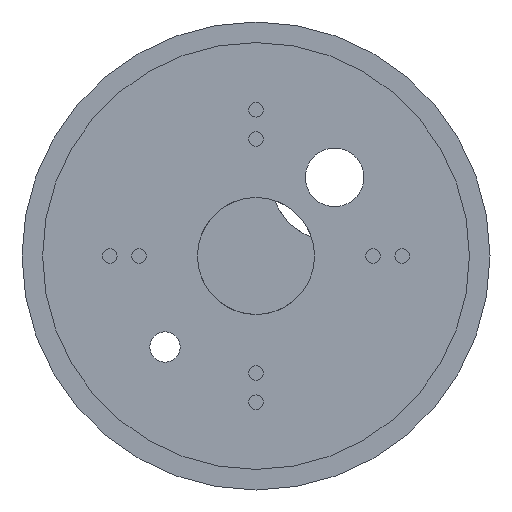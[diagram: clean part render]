
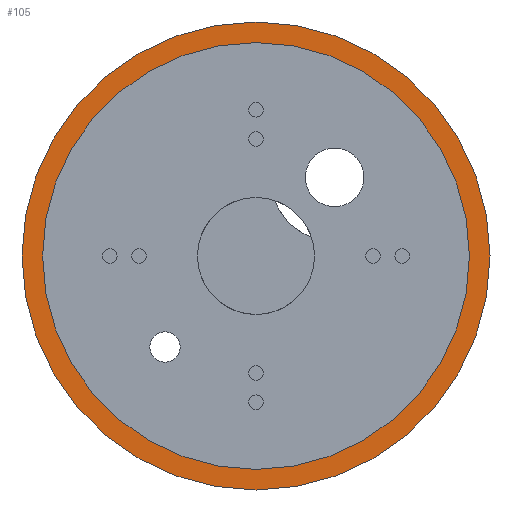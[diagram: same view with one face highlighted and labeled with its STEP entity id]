
A CAD part, left-side view. The second image highlights one B-rep face of the part: STEP entity #105.
In plain terms, the highlighted planar face has unit normal (-1, 0, 0).
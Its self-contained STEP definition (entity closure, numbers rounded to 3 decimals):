
#22 = VERTEX_POINT('',#23);
#23 = CARTESIAN_POINT('',(91.2,40.,0.));
#32 = CYLINDRICAL_SURFACE('',#33,40.);
#33 = AXIS2_PLACEMENT_3D('',#34,#35,#36);
#34 = CARTESIAN_POINT('',(91.2,0.,0.));
#35 = DIRECTION('',(-1.,-0.,-0.));
#36 = DIRECTION('',(0.,1.,0.));
#79 = EDGE_CURVE('',#22,#22,#80,.T.);
#80 = SURFACE_CURVE('',#81,(#86,#93),.PCURVE_S1.);
#81 = CIRCLE('',#82,40.);
#82 = AXIS2_PLACEMENT_3D('',#83,#84,#85);
#83 = CARTESIAN_POINT('',(91.2,0.,0.));
#84 = DIRECTION('',(1.,0.,0.));
#85 = DIRECTION('',(0.,1.,0.));
#86 = PCURVE('',#32,#87);
#87 = DEFINITIONAL_REPRESENTATION('',(#88),#92);
#88 = LINE('',#89,#90);
#89 = CARTESIAN_POINT('',(-0.,0.));
#90 = VECTOR('',#91,1.);
#91 = DIRECTION('',(-1.,0.));
#92 = ( GEOMETRIC_REPRESENTATION_CONTEXT(2) 
PARAMETRIC_REPRESENTATION_CONTEXT() REPRESENTATION_CONTEXT('2D SPACE',''
  ) );
#93 = PCURVE('',#94,#99);
#94 = PLANE('',#95);
#95 = AXIS2_PLACEMENT_3D('',#96,#97,#98);
#96 = CARTESIAN_POINT('',(91.2,0.,0.));
#97 = DIRECTION('',(1.,0.,0.));
#98 = DIRECTION('',(-0.,0.,1.));
#99 = DEFINITIONAL_REPRESENTATION('',(#100),#104);
#100 = CIRCLE('',#101,40.);
#101 = AXIS2_PLACEMENT_2D('',#102,#103);
#102 = CARTESIAN_POINT('',(0.,0.));
#103 = DIRECTION('',(0.,-1.));
#104 = ( GEOMETRIC_REPRESENTATION_CONTEXT(2) 
PARAMETRIC_REPRESENTATION_CONTEXT() REPRESENTATION_CONTEXT('2D SPACE',''
  ) );
#105 = ADVANCED_FACE('',(#106,#109),#94,.F.);
#106 = FACE_BOUND('',#107,.F.);
#107 = EDGE_LOOP('',(#108));
#108 = ORIENTED_EDGE('',*,*,#79,.T.);
#109 = FACE_BOUND('',#110,.F.);
#110 = EDGE_LOOP('',(#111));
#111 = ORIENTED_EDGE('',*,*,#112,.F.);
#112 = EDGE_CURVE('',#113,#113,#115,.T.);
#113 = VERTEX_POINT('',#114);
#114 = CARTESIAN_POINT('',(91.2,36.475,0.));
#115 = SURFACE_CURVE('',#116,(#121,#128),.PCURVE_S1.);
#116 = CIRCLE('',#117,36.475);
#117 = AXIS2_PLACEMENT_3D('',#118,#119,#120);
#118 = CARTESIAN_POINT('',(91.2,0.,0.));
#119 = DIRECTION('',(1.,0.,0.));
#120 = DIRECTION('',(0.,1.,0.));
#121 = PCURVE('',#94,#122);
#122 = DEFINITIONAL_REPRESENTATION('',(#123),#127);
#123 = CIRCLE('',#124,36.475);
#124 = AXIS2_PLACEMENT_2D('',#125,#126);
#125 = CARTESIAN_POINT('',(0.,0.));
#126 = DIRECTION('',(0.,-1.));
#127 = ( GEOMETRIC_REPRESENTATION_CONTEXT(2) 
PARAMETRIC_REPRESENTATION_CONTEXT() REPRESENTATION_CONTEXT('2D SPACE',''
  ) );
#128 = PCURVE('',#129,#134);
#129 = CYLINDRICAL_SURFACE('',#130,36.475);
#130 = AXIS2_PLACEMENT_3D('',#131,#132,#133);
#131 = CARTESIAN_POINT('',(84.7,0.,0.));
#132 = DIRECTION('',(-1.,-0.,-0.));
#133 = DIRECTION('',(0.,1.,0.));
#134 = DEFINITIONAL_REPRESENTATION('',(#135),#139);
#135 = LINE('',#136,#137);
#136 = CARTESIAN_POINT('',(-0.,-6.5));
#137 = VECTOR('',#138,1.);
#138 = DIRECTION('',(-1.,0.));
#139 = ( GEOMETRIC_REPRESENTATION_CONTEXT(2) 
PARAMETRIC_REPRESENTATION_CONTEXT() REPRESENTATION_CONTEXT('2D SPACE',''
  ) );
